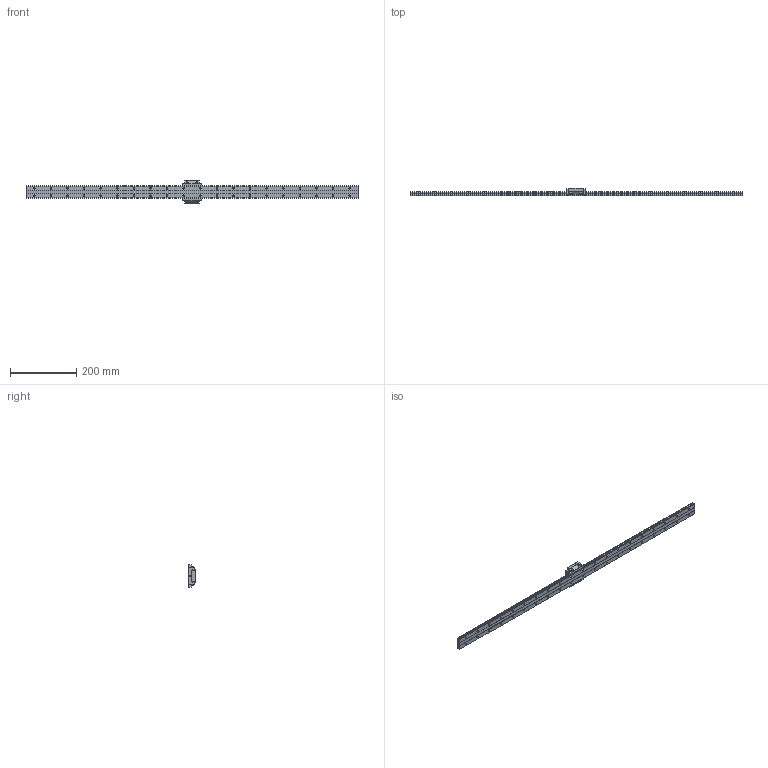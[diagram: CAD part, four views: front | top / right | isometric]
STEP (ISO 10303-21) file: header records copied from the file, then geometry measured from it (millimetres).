
FILE_DESCRIPTION( ( '' ), '1' );
FILE_NAME( 'C:/Users/v3-771-32344/Documents/Website 2016/STEP/SHW21CA1UU1000250470.5000.stp', '2016-11-10T12:43:52', ( '' ), ( '' ), ' ', ' ', ' ' );
FILE_SCHEMA( ( 'CONFIG_CONTROL_DESIGN' ) );
Length unit declared in the file: millimetre
Products named in the file (2): 1; 2
Bounding box: 1000 x 21 x 68 mm (x, y, z)
Volume: 411478 mm3; surface area: 119918.3 mm2
Topology: 2 solids, 2 shells, 397 faces, 1022 edges, 672 vertices
Faces by surface type: cylinder 218, plane 155, cone 24
Entity records: 12552 total; most frequent: DIRECTION 2296, CARTESIAN_POINT 2129, ORIENTED_EDGE 2044, EDGE_CURVE 1022, AXIS2_PLACEMENT_3D 879, VERTEX_POINT 672, LINE 538, VECTOR 538
